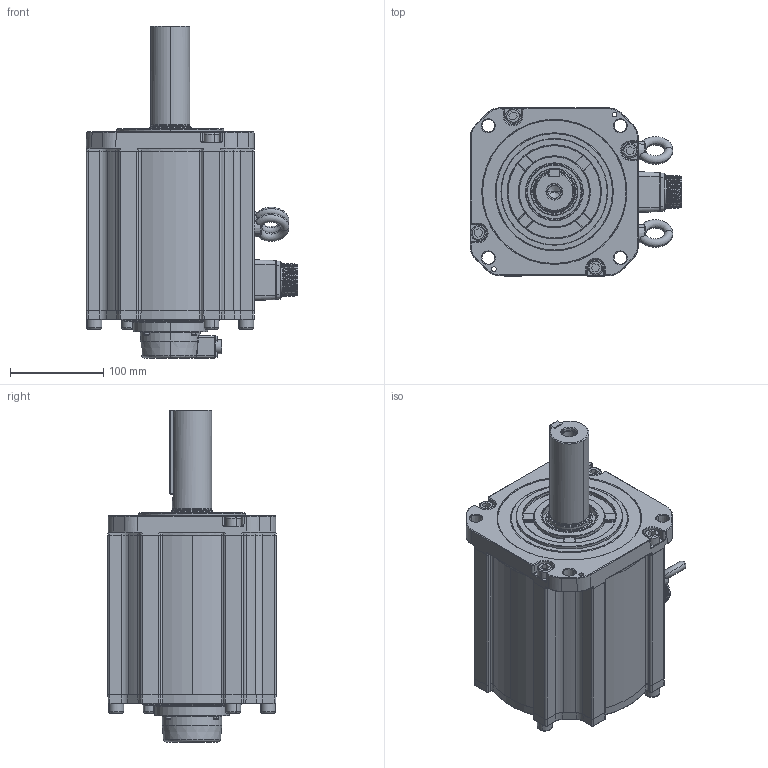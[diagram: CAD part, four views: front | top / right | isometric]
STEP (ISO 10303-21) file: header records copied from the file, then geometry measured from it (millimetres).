
FILE_DESCRIPTION (( 'STEP AP214' ), '1' );
FILE_NAME ('RSA1-M-180-5.5kw.STEP', '2024-08-12T09:29:45', ( '' ), ( '' ), 'SwSTEP 2.0', 'SolidWorks 2020', '' );
FILE_SCHEMA (( 'AUTOMOTIVE_DESIGN' ));
Length unit declared in the file: millimetre
Products named in the file (16): 裂遠蹟隊_M8; 坋趼羞攫芛蹟隊_M3x30; 180-梓袧雄薯脣釱; RSA1-M-180-5.5kw; 180-M-5.5kw-儂褲; 180-ヶ傷裔; 4140000005_电机内部编码器线_7x26AWG(0.1m-CMV1-10芯螺纹插座_GACJ3045); 蚐猾_TC45x62x9; 内六角圆柱头螺钉_M10x30; ﾊｮﾗﾖｲﾛﾅﾌﾍｷﾗﾔｼｷﾂﾝｶ､_M3x8; 180-瑤脣釱; 180-梓袧綴傷裔; 内六角圆柱头和平垫圈组合螺钉_M3x16; 130梓袧綴裔; す瑩_B12x8x90; 180-翋粣-42粣噤
Assembly tree (32 placements, depth 2):
  RSA1-M-180-5.5kw
    180-M-5.5kw-儂褲
    180-ヶ傷裔
    180-瑤脣釱
    180-梓袧綴傷裔
    130梓袧綴裔
    4140000005_电机内部编码器线_7x26AWG(0.1m-CMV1-10芯螺纹插座_GACJ3045)
    180-梓袧雄薯脣釱
    180-翋粣-42粣噤
    す瑩_B12x8x90
    ﾊｮﾗﾖｲﾛﾅﾌﾍｷﾗﾔｼｷﾂﾝｶ､_M3x8  x4
    坋趼羞攫芛蹟隊_M3x30  x4
    内六角圆柱头螺钉_M10x30  x8
    内六角圆柱头和平垫圈组合螺钉_M3x16  x4
    蚐猾_TC45x62x9
    裂遠蹟隊_M8  x2
Bounding box: 226.5 x 180 x 355.5 mm (x, y, z)
Volume: 5535457.1 mm3; surface area: 502305.6 mm2
Topology: 43 solids, 44 shells, 2866 faces, 7100 edges, 4456 vertices
Faces by surface type: plane 1069, cylinder 743, bspline 464, cone 335, torus 215, sphere 40
Entity records: 104689 total; most frequent: CARTESIAN_POINT 38008, ORIENTED_EDGE 12262, DIRECTION 11016, EDGE_CURVE 6131, AXIS2_PLACEMENT_3D 4045, VERTEX_POINT 3872, LINE 2926, VECTOR 2926
